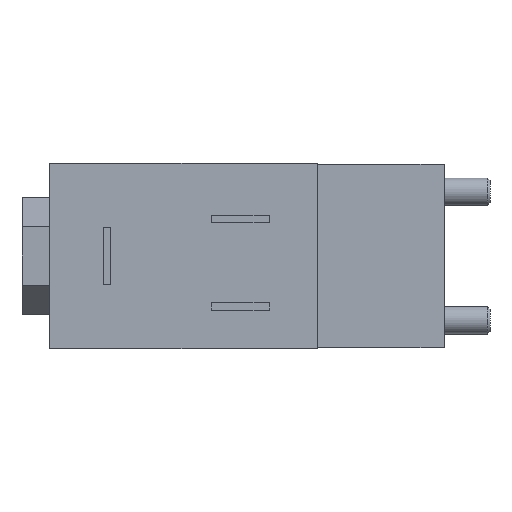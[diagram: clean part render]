
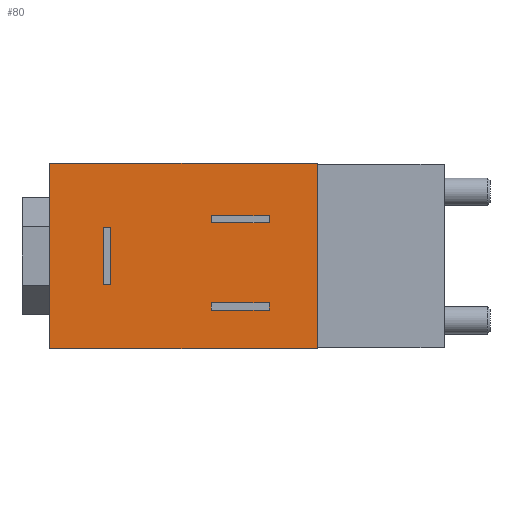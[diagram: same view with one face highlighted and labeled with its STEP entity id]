
A CAD part, left-side view. The second image highlights one B-rep face of the part: STEP entity #80.
In plain terms, the highlighted planar face has unit normal (-1, 0, 0).
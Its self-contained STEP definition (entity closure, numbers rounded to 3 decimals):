
#80 = ADVANCED_FACE( '', ( #191, #192, #193, #194 ), #195, .F. );
#191 = FACE_BOUND( '', #340, .T. );
#192 = FACE_BOUND( '', #341, .T. );
#193 = FACE_BOUND( '', #342, .T. );
#194 = FACE_OUTER_BOUND( '', #343, .T. );
#195 = PLANE( '', #344 );
#340 = EDGE_LOOP( '', ( #515, #516, #517, #518 ) );
#341 = EDGE_LOOP( '', ( #519, #520, #521, #522 ) );
#342 = EDGE_LOOP( '', ( #523, #524, #525, #526 ) );
#343 = EDGE_LOOP( '', ( #527, #528, #529, #530 ) );
#344 = AXIS2_PLACEMENT_3D( '', #531, #532, #533 );
#515 = ORIENTED_EDGE( '', *, *, #868, .T. );
#516 = ORIENTED_EDGE( '', *, *, #858, .T. );
#517 = ORIENTED_EDGE( '', *, *, #869, .T. );
#518 = ORIENTED_EDGE( '', *, *, #870, .T. );
#519 = ORIENTED_EDGE( '', *, *, #853, .T. );
#520 = ORIENTED_EDGE( '', *, *, #871, .T. );
#521 = ORIENTED_EDGE( '', *, *, #872, .T. );
#522 = ORIENTED_EDGE( '', *, *, #873, .T. );
#523 = ORIENTED_EDGE( '', *, *, #874, .T. );
#524 = ORIENTED_EDGE( '', *, *, #863, .T. );
#525 = ORIENTED_EDGE( '', *, *, #875, .T. );
#526 = ORIENTED_EDGE( '', *, *, #876, .T. );
#527 = ORIENTED_EDGE( '', *, *, #877, .T. );
#528 = ORIENTED_EDGE( '', *, *, #840, .F. );
#529 = ORIENTED_EDGE( '', *, *, #878, .F. );
#530 = ORIENTED_EDGE( '', *, *, #879, .T. );
#531 = CARTESIAN_POINT( '', ( -16.3, 29.2, -10.1 ) );
#532 = DIRECTION( '', ( 1., 0., 0. ) );
#533 = DIRECTION( '', ( 0., 0., -1. ) );
#840 = EDGE_CURVE( '', #984, #979, #986, .T. );
#853 = EDGE_CURVE( '', #1007, #1008, #1009, .T. );
#858 = EDGE_CURVE( '', #1016, #1017, #1018, .T. );
#863 = EDGE_CURVE( '', #1025, #1026, #1027, .T. );
#868 = EDGE_CURVE( '', #1034, #1016, #1035, .T. );
#869 = EDGE_CURVE( '', #1017, #1036, #1037, .T. );
#870 = EDGE_CURVE( '', #1036, #1034, #1038, .T. );
#871 = EDGE_CURVE( '', #1008, #1039, #1040, .T. );
#872 = EDGE_CURVE( '', #1039, #1041, #1042, .T. );
#873 = EDGE_CURVE( '', #1041, #1007, #1043, .T. );
#874 = EDGE_CURVE( '', #1044, #1025, #1045, .T. );
#875 = EDGE_CURVE( '', #1026, #1046, #1047, .T. );
#876 = EDGE_CURVE( '', #1046, #1044, #1048, .T. );
#877 = EDGE_CURVE( '', #1049, #979, #1050, .T. );
#878 = EDGE_CURVE( '', #1051, #984, #1052, .T. );
#879 = EDGE_CURVE( '', #1051, #1049, #1053, .T. );
#979 = VERTEX_POINT( '', #1187 );
#984 = VERTEX_POINT( '', #1194 );
#986 = LINE( '', #1197, #1198 );
#1007 = VERTEX_POINT( '', #1228 );
#1008 = VERTEX_POINT( '', #1229 );
#1009 = LINE( '', #1230, #1231 );
#1016 = VERTEX_POINT( '', #1241 );
#1017 = VERTEX_POINT( '', #1242 );
#1018 = LINE( '', #1243, #1244 );
#1025 = VERTEX_POINT( '', #1254 );
#1026 = VERTEX_POINT( '', #1255 );
#1027 = LINE( '', #1256, #1257 );
#1034 = VERTEX_POINT( '', #1267 );
#1035 = LINE( '', #1268, #1269 );
#1036 = VERTEX_POINT( '', #1270 );
#1037 = LINE( '', #1271, #1272 );
#1038 = LINE( '', #1273, #1274 );
#1039 = VERTEX_POINT( '', #1275 );
#1040 = LINE( '', #1276, #1277 );
#1041 = VERTEX_POINT( '', #1278 );
#1042 = LINE( '', #1279, #1280 );
#1043 = LINE( '', #1281, #1282 );
#1044 = VERTEX_POINT( '', #1283 );
#1045 = LINE( '', #1284, #1285 );
#1046 = VERTEX_POINT( '', #1286 );
#1047 = LINE( '', #1287, #1288 );
#1048 = LINE( '', #1289, #1290 );
#1049 = VERTEX_POINT( '', #1291 );
#1050 = LINE( '', #1292, #1293 );
#1051 = VERTEX_POINT( '', #1294 );
#1052 = LINE( '', #1295, #1296 );
#1053 = LINE( '', #1297, #1298 );
#1187 = CARTESIAN_POINT( '', ( -16.3, 0., 10.1 ) );
#1194 = CARTESIAN_POINT( '', ( -16.3, 29.2, 10.1 ) );
#1197 = CARTESIAN_POINT( '', ( -16.3, 29.2, 10.1 ) );
#1198 = VECTOR( '', #1481, 1000. );
#1228 = CARTESIAN_POINT( '', ( -16.3, 5.26, 3.6 ) );
#1229 = CARTESIAN_POINT( '', ( -16.3, 11.56, 3.6 ) );
#1230 = CARTESIAN_POINT( '', ( -16.3, 5.26, 3.6 ) );
#1231 = VECTOR( '', #1491, 1000. );
#1241 = CARTESIAN_POINT( '', ( -16.3, 11.56, -5.9 ) );
#1242 = CARTESIAN_POINT( '', ( -16.3, 11.56, -5.1 ) );
#1243 = CARTESIAN_POINT( '', ( -16.3, 11.56, -5.9 ) );
#1244 = VECTOR( '', #1495, 1000. );
#1254 = CARTESIAN_POINT( '', ( -16.3, 23.31, 3.15 ) );
#1255 = CARTESIAN_POINT( '', ( -16.3, 22.51, 3.15 ) );
#1256 = CARTESIAN_POINT( '', ( -16.3, 23.31, 3.15 ) );
#1257 = VECTOR( '', #1499, 1000. );
#1267 = CARTESIAN_POINT( '', ( -16.3, 5.26, -5.9 ) );
#1268 = CARTESIAN_POINT( '', ( -16.3, 5.26, -5.9 ) );
#1269 = VECTOR( '', #1503, 1000. );
#1270 = CARTESIAN_POINT( '', ( -16.3, 5.26, -5.1 ) );
#1271 = CARTESIAN_POINT( '', ( -16.3, 11.56, -5.1 ) );
#1272 = VECTOR( '', #1504, 1000. );
#1273 = CARTESIAN_POINT( '', ( -16.3, 5.26, -5.1 ) );
#1274 = VECTOR( '', #1505, 1000. );
#1275 = CARTESIAN_POINT( '', ( -16.3, 11.56, 4.4 ) );
#1276 = CARTESIAN_POINT( '', ( -16.3, 11.56, 3.6 ) );
#1277 = VECTOR( '', #1506, 1000. );
#1278 = CARTESIAN_POINT( '', ( -16.3, 5.26, 4.4 ) );
#1279 = CARTESIAN_POINT( '', ( -16.3, 11.56, 4.4 ) );
#1280 = VECTOR( '', #1507, 1000. );
#1281 = CARTESIAN_POINT( '', ( -16.3, 5.26, 4.4 ) );
#1282 = VECTOR( '', #1508, 1000. );
#1283 = CARTESIAN_POINT( '', ( -16.3, 23.31, -3.15 ) );
#1284 = CARTESIAN_POINT( '', ( -16.3, 23.31, -3.15 ) );
#1285 = VECTOR( '', #1509, 1000. );
#1286 = CARTESIAN_POINT( '', ( -16.3, 22.51, -3.15 ) );
#1287 = CARTESIAN_POINT( '', ( -16.3, 22.51, 3.15 ) );
#1288 = VECTOR( '', #1510, 1000. );
#1289 = CARTESIAN_POINT( '', ( -16.3, 22.51, -3.15 ) );
#1290 = VECTOR( '', #1511, 1000. );
#1291 = CARTESIAN_POINT( '', ( -16.3, 0., -10.1 ) );
#1292 = CARTESIAN_POINT( '', ( -16.3, 0., -10.1 ) );
#1293 = VECTOR( '', #1512, 1000. );
#1294 = CARTESIAN_POINT( '', ( -16.3, 29.2, -10.1 ) );
#1295 = CARTESIAN_POINT( '', ( -16.3, 29.2, -10.1 ) );
#1296 = VECTOR( '', #1513, 1000. );
#1297 = CARTESIAN_POINT( '', ( -16.3, 29.2, -10.1 ) );
#1298 = VECTOR( '', #1514, 1000. );
#1481 = DIRECTION( '', ( 0., -1., 0. ) );
#1491 = DIRECTION( '', ( 0., 1., 0. ) );
#1495 = DIRECTION( '', ( 0., 0., 1. ) );
#1499 = DIRECTION( '', ( 0., -1., 0. ) );
#1503 = DIRECTION( '', ( 0., 1., 0. ) );
#1504 = DIRECTION( '', ( 0., -1., 0. ) );
#1505 = DIRECTION( '', ( 0., 0., -1. ) );
#1506 = DIRECTION( '', ( 0., 0., 1. ) );
#1507 = DIRECTION( '', ( 0., -1., 0. ) );
#1508 = DIRECTION( '', ( 0., 0., -1. ) );
#1509 = DIRECTION( '', ( 0., 0., 1. ) );
#1510 = DIRECTION( '', ( 0., 0., -1. ) );
#1511 = DIRECTION( '', ( 0., 1., 0. ) );
#1512 = DIRECTION( '', ( 0., 0., 1. ) );
#1513 = DIRECTION( '', ( 0., 0., 1. ) );
#1514 = DIRECTION( '', ( 0., -1., 0. ) );
